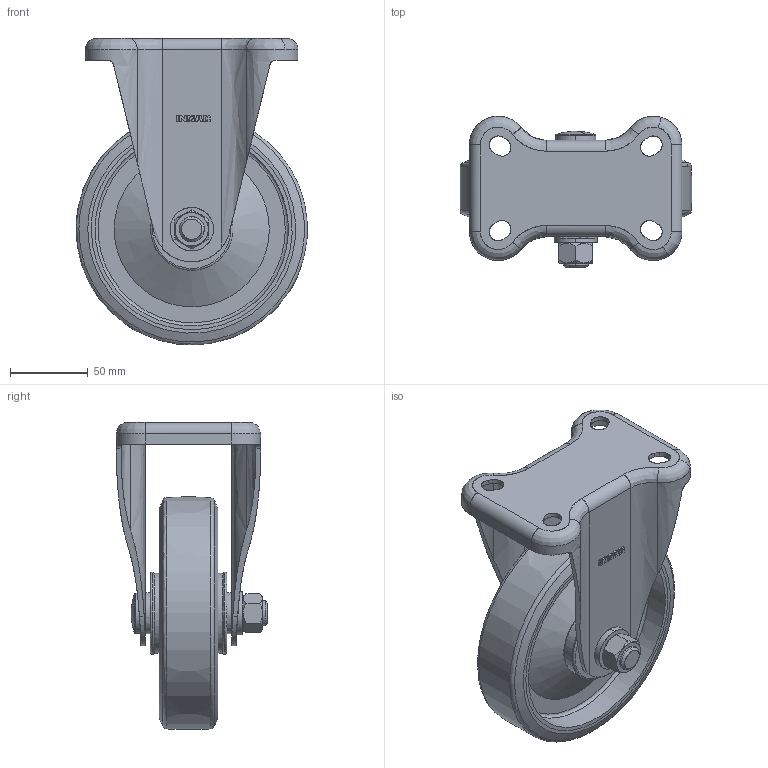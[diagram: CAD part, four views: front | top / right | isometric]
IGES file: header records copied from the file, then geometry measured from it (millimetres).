
Start section: JAMA-IS VERSION  1.0
Global section: file name: C:\CAM-TOOL data\ToolsFile\INOAC車輪\12月\P-150WK\P-150WK-IGS.igs; native system: CAM-TOOL; preprocessor: C3out Version 11.1.1.50212 (2015/02/12); author: NONE; organization: NONE; date: 221224.223559; units: millimetre
Bounding box: 149.57 x 97.5 x 197.94 mm (x, y, z)
Surface area: 233861 mm2 (no closed solid volume)
Topology: 0 solids, 0 shells, 420 faces, 8353 edges, 8636 vertices
Faces by surface type: bspline 420
